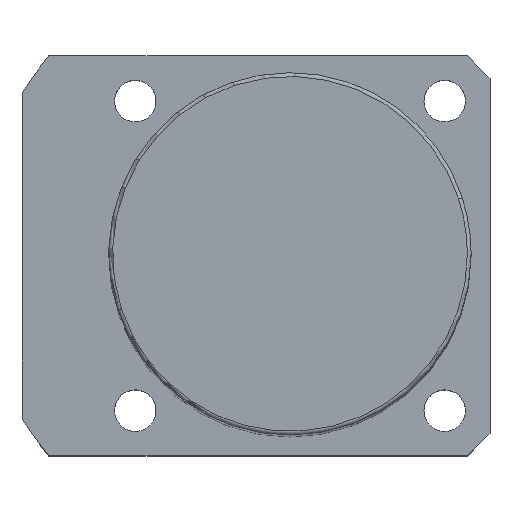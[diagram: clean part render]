
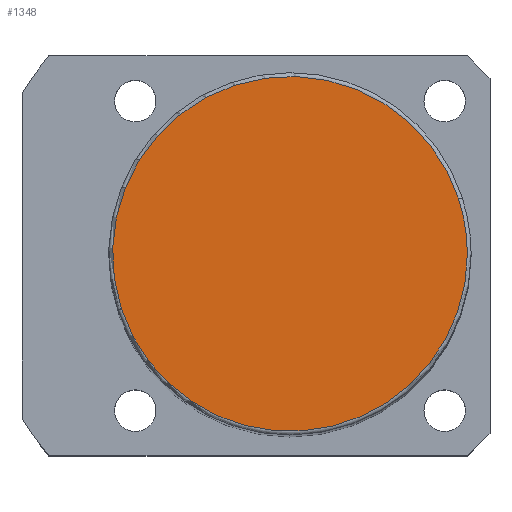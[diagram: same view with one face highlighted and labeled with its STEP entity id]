
A CAD part, top view. The second image highlights one B-rep face of the part: STEP entity #1348.
In plain terms, the highlighted planar face has unit normal (0, 0, 1).
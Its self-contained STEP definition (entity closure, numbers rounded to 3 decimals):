
#1314=CARTESIAN_POINT('',(23.5,0.0,164.0));
#1315=VERTEX_POINT('',#1314);
#1316=CARTESIAN_POINT('',(22.35,7.262,164.0));
#1317=VERTEX_POINT('',#1316);
#1318=CARTESIAN_POINT('',(0.0,0.0,164.0));
#1319=DIRECTION('',(0.0,0.0,1.0));
#1320=DIRECTION('',(1.0,0.0,0.0));
#1321=AXIS2_PLACEMENT_3D('',#1318,#1319,#1320);
#1322=CIRCLE('',#1321,23.5);
#1323=EDGE_CURVE('no 3340',#1315,#1317,#1322,.T.);
#1324=ORIENTED_EDGE('',*,*,#1323,.T.);
#1325=CARTESIAN_POINT('',(-22.35,-7.262,164.0));
#1326=VERTEX_POINT('',#1325);
#1327=CARTESIAN_POINT('',(0.0,0.0,164.0));
#1328=DIRECTION('',(0.0,0.0,1.0));
#1329=DIRECTION('',(1.0,0.0,0.0));
#1330=AXIS2_PLACEMENT_3D('',#1327,#1328,#1329);
#1331=CIRCLE('',#1330,23.5);
#1332=EDGE_CURVE('no 3346',#1317,#1326,#1331,.T.);
#1333=ORIENTED_EDGE('',*,*,#1332,.T.);
#1334=CARTESIAN_POINT('',(0.0,0.0,164.0));
#1335=DIRECTION('',(0.0,0.0,1.0));
#1336=DIRECTION('',(1.0,0.0,0.0));
#1337=AXIS2_PLACEMENT_3D('',#1334,#1335,#1336);
#1338=CIRCLE('',#1337,23.5);
#1339=EDGE_CURVE('no 3350',#1326,#1315,#1338,.T.);
#1340=ORIENTED_EDGE('',*,*,#1339,.T.);
#1341=EDGE_LOOP('',(#1324,#1333,#1340));
#1342=FACE_OUTER_BOUND('',#1341,.T.);
#1343=CARTESIAN_POINT('',(0.0,0.0,164.0));
#1344=DIRECTION('',(0.0,0.0,1.0));
#1345=DIRECTION('',(1.0,0.0,0.0));
#1346=AXIS2_PLACEMENT_3D('',#1343,#1344,#1345);
#1347=PLANE('',#1346);
#1348=ADVANCED_FACE('no 3331',(#1342),#1347,.T.);
